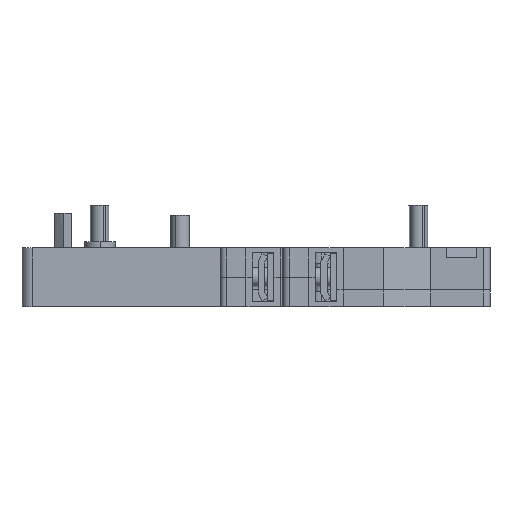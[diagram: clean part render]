
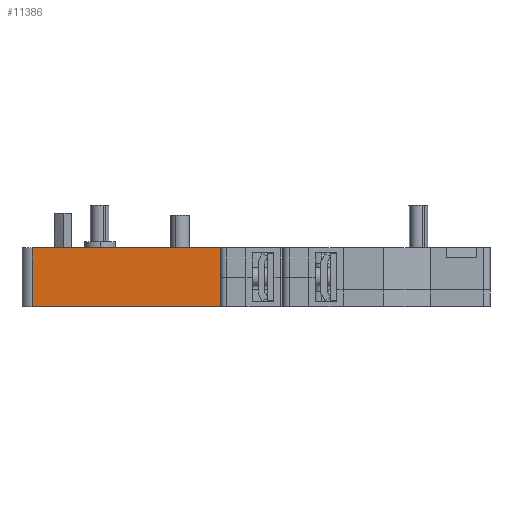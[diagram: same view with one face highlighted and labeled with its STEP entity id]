
A CAD part, left-side view. The second image highlights one B-rep face of the part: STEP entity #11386.
In plain terms, the highlighted planar face has unit normal (-1, 0, 0).
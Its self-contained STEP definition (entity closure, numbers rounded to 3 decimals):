
#80 = CARTESIAN_POINT ( 'NONE',  ( -13.9, -18.75, -4.7 ) ) ;
#317 = LINE ( 'NONE', #1948, #13329 ) ;
#511 = DIRECTION ( 'NONE',  ( 0., 0., -1. ) ) ;
#532 = EDGE_CURVE ( 'NONE', #13521, #3882, #3485, .T. ) ;
#565 = CARTESIAN_POINT ( 'NONE',  ( -13.9, 11.25, -9.4 ) ) ;
#1132 = EDGE_CURVE ( 'NONE', #5632, #3882, #9420, .T. ) ;
#1948 = CARTESIAN_POINT ( 'NONE',  ( -13.9, -18.75, 98.729 ) ) ;
#2081 = ORIENTED_EDGE ( 'NONE', *, *, #3493, .T. ) ;
#2164 = EDGE_CURVE ( 'NONE', #6262, #9228, #6835, .T. ) ;
#2273 = CARTESIAN_POINT ( 'NONE',  ( -13.9, 11.25, 0. ) ) ;
#2881 = VECTOR ( 'NONE', #14039, 1000. ) ;
#2910 = VECTOR ( 'NONE', #11854, 1000. ) ;
#3050 = AXIS2_PLACEMENT_3D ( 'NONE', #14345, #12029, #3884 ) ;
#3485 = LINE ( 'NONE', #12729, #4394 ) ;
#3493 = EDGE_CURVE ( 'NONE', #5632, #6262, #10241, .T. ) ;
#3748 = CARTESIAN_POINT ( 'NONE',  ( -13.9, -18.75, 0. ) ) ;
#3882 = VERTEX_POINT ( 'NONE', #3748 ) ;
#3884 = DIRECTION ( 'NONE',  ( 0., 0., 1. ) ) ;
#4394 = VECTOR ( 'NONE', #5882, 1000. ) ;
#4654 = ORIENTED_EDGE ( 'NONE', *, *, #2164, .T. ) ;
#4920 = EDGE_CURVE ( 'NONE', #13521, #9228, #317, .T. ) ;
#5216 = EDGE_LOOP ( 'NONE', ( #14200, #14274, #14597, #2081, #4654 ) ) ;
#5632 = VERTEX_POINT ( 'NONE', #2273 ) ;
#5882 = DIRECTION ( 'NONE',  ( 0., 0., 1. ) ) ;
#6262 = VERTEX_POINT ( 'NONE', #8065 ) ;
#6835 = LINE ( 'NONE', #11651, #2881 ) ;
#8065 = CARTESIAN_POINT ( 'NONE',  ( -13.9, 11.25, -9.4 ) ) ;
#8405 = VECTOR ( 'NONE', #511, 1000. ) ;
#8466 = CARTESIAN_POINT ( 'NONE',  ( -13.9, -18.75, -9.4 ) ) ;
#9228 = VERTEX_POINT ( 'NONE', #8466 ) ;
#9420 = LINE ( 'NONE', #13980, #2910 ) ;
#10241 = LINE ( 'NONE', #565, #8405 ) ;
#11386 = ADVANCED_FACE ( 'NONE', ( #13917 ), #13243, .T. ) ;
#11651 = CARTESIAN_POINT ( 'NONE',  ( -13.9, -18.75, -9.4 ) ) ;
#11854 = DIRECTION ( 'NONE',  ( 0., -1., 0. ) ) ;
#12029 = DIRECTION ( 'NONE',  ( -1., 0., 0. ) ) ;
#12729 = CARTESIAN_POINT ( 'NONE',  ( -13.9, -18.75, -9.4 ) ) ;
#13243 = PLANE ( 'NONE',  #3050 ) ;
#13329 = VECTOR ( 'NONE', #13394, 1000. ) ;
#13394 = DIRECTION ( 'NONE',  ( 0., 0., -1. ) ) ;
#13521 = VERTEX_POINT ( 'NONE', #80 ) ;
#13917 = FACE_OUTER_BOUND ( 'NONE', #5216, .T. ) ;
#13980 = CARTESIAN_POINT ( 'NONE',  ( -13.9, -18.75, 0. ) ) ;
#14039 = DIRECTION ( 'NONE',  ( 0., -1., 0. ) ) ;
#14200 = ORIENTED_EDGE ( 'NONE', *, *, #4920, .F. ) ;
#14274 = ORIENTED_EDGE ( 'NONE', *, *, #532, .T. ) ;
#14345 = CARTESIAN_POINT ( 'NONE',  ( -13.9, -18.75, -9.4 ) ) ;
#14597 = ORIENTED_EDGE ( 'NONE', *, *, #1132, .F. ) ;
